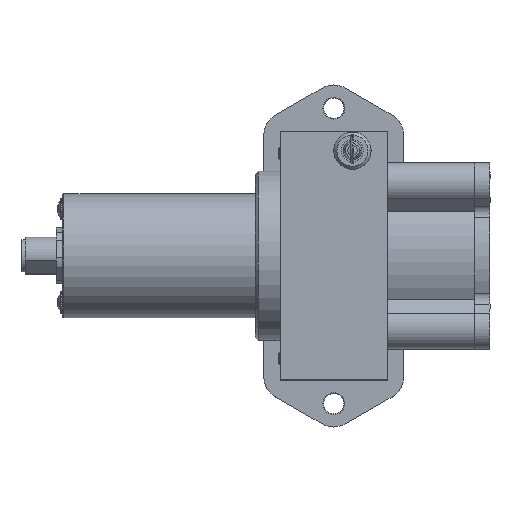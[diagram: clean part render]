
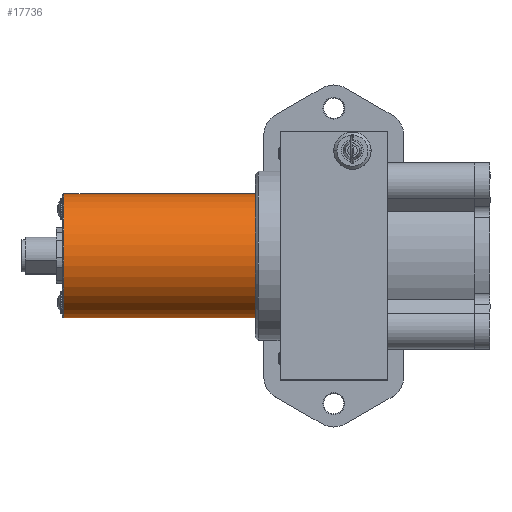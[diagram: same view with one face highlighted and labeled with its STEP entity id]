
A CAD part, top view. The second image highlights one B-rep face of the part: STEP entity #17736.
In plain terms, the highlighted cylindrical face has radius 20 mm (diameter 40 mm), a partial arc.
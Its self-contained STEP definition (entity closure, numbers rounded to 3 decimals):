
#4275 = CARTESIAN_POINT ( 'NONE',  ( -37.5, 20., 0. ) ) ;
#4297 = DIRECTION ( 'NONE',  ( 0., 1., 0. ) ) ;
#4298 = DIRECTION ( 'NONE',  ( -1., 0., 0. ) ) ;
#4299 = CARTESIAN_POINT ( 'NONE',  ( -37.5, 0., 0. ) ) ;
#4300 = AXIS2_PLACEMENT_3D ( 'NONE', #4299, #4298, #4297 ) ;
#4301 = LINE ( 'NONE', #4355, #4354 ) ;
#4306 = CIRCLE ( 'NONE', #4300, 20. ) ;
#4353 = DIRECTION ( 'NONE',  ( 1., 0., 0. ) ) ;
#4354 = VECTOR ( 'NONE', #4353, 1000. ) ;
#4355 = CARTESIAN_POINT ( 'NONE',  ( -37.5, 20., 0. ) ) ;
#10788 = FACE_OUTER_BOUND ( 'NONE', #17735, .T. ) ;
#10795 = DIRECTION ( 'NONE',  ( 1., 0., 0. ) ) ;
#10796 = VECTOR ( 'NONE', #10795, 1000. ) ;
#10797 = CARTESIAN_POINT ( 'NONE',  ( -37.5, -20., 0. ) ) ;
#10798 = LINE ( 'NONE', #10797, #10796 ) ;
#10799 = DIRECTION ( 'NONE',  ( 0., 1., 0. ) ) ;
#10800 = DIRECTION ( 'NONE',  ( 1., 0., 0. ) ) ;
#10801 = CARTESIAN_POINT ( 'NONE',  ( -99., 0., 0. ) ) ;
#10802 = AXIS2_PLACEMENT_3D ( 'NONE', #10801, #10800, #10799 ) ;
#10803 = CIRCLE ( 'NONE', #10802, 20. ) ;
#10824 = DIRECTION ( 'NONE',  ( 0., 1., 0. ) ) ;
#10825 = DIRECTION ( 'NONE',  ( 1., 0., 0. ) ) ;
#10826 = CARTESIAN_POINT ( 'NONE',  ( -37.5, 0., 0. ) ) ;
#10827 = AXIS2_PLACEMENT_3D ( 'NONE', #10826, #10825, #10824 ) ;
#10830 = CYLINDRICAL_SURFACE ( 'NONE', #10827, 20. ) ;
#10850 = CARTESIAN_POINT ( 'NONE',  ( -99., 20., 0. ) ) ;
#10851 = CARTESIAN_POINT ( 'NONE',  ( -37.5, -20., 0. ) ) ;
#10852 = CARTESIAN_POINT ( 'NONE',  ( -99., -20., 0. ) ) ;
#16374 = VERTEX_POINT ( 'NONE', #4275 ) ;
#16381 = ORIENTED_EDGE ( 'NONE', *, *, #16383, .F. ) ;
#16382 = EDGE_CURVE ( 'NONE', #17741, #16374, #4306, .T. ) ;
#16383 = EDGE_CURVE ( 'NONE', #17743, #16374, #4301, .T. ) ;
#17727 = ORIENTED_EDGE ( 'NONE', *, *, #17730, .T. ) ;
#17730 = EDGE_CURVE ( 'NONE', #17743, #17740, #10803, .T. ) ;
#17731 = ORIENTED_EDGE ( 'NONE', *, *, #17732, .T. ) ;
#17732 = EDGE_CURVE ( 'NONE', #17740, #17741, #10798, .T. ) ;
#17735 = EDGE_LOOP ( 'NONE', ( #17727, #17731, #17742, #16381 ) ) ;
#17736 = ADVANCED_FACE ( 'NONE', ( #10788 ), #10830, .T. ) ;
#17740 = VERTEX_POINT ( 'NONE', #10852 ) ;
#17741 = VERTEX_POINT ( 'NONE', #10851 ) ;
#17742 = ORIENTED_EDGE ( 'NONE', *, *, #16382, .T. ) ;
#17743 = VERTEX_POINT ( 'NONE', #10850 ) ;
